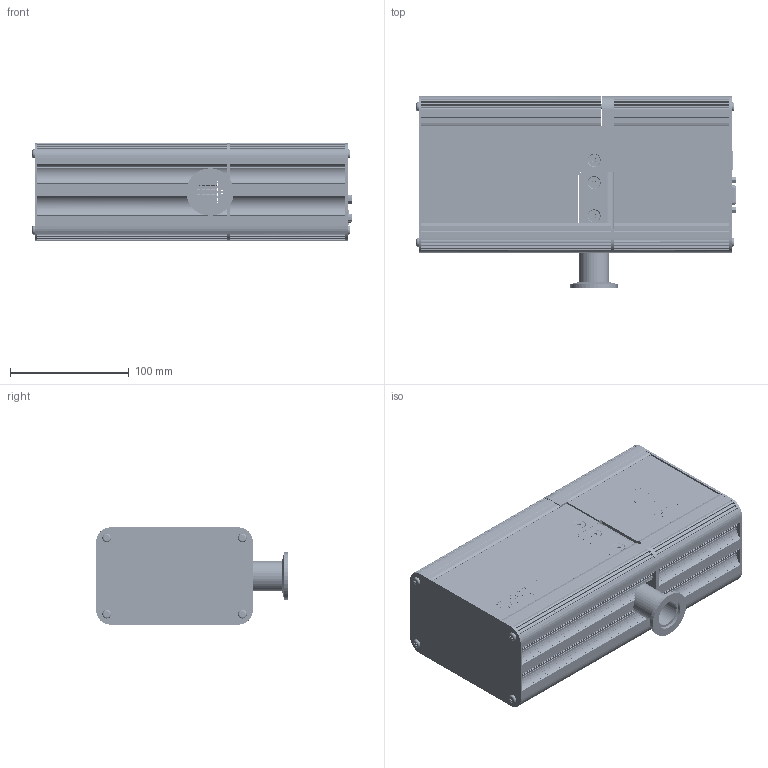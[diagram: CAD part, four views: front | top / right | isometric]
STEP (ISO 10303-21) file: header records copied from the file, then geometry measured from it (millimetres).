
FILE_DESCRIPTION((''),'2;1');
FILE_NAME('S05222-A00_SW0001-CUSTOMER','2025-07-09T08:17:07',('jessica.stoner'),('Gencoa Limited'),'CREO PARAMETRIC BY PTC INC, 2024133','CREO PARAMETRIC BY PTC INC, 2024133','');
FILE_SCHEMA(('CONFIG_CONTROL_DESIGN'));
Products named in the file (1): S05222-A00_SW0001-CUSTOMER
Bounding box: 269.67 x 161.5 x 82 mm (x, y, z)
Volume: 466284.9 mm3; surface area: 383853.5 mm2
Topology: 16 solids, 16 shells, 9710 faces, 28919 edges, 19091 vertices
Faces by surface type: plane 6968, cylinder 1978, extrusion 411, cone 188, bspline 90, torus 69, sphere 6
Entity records: 366083 total; most frequent: CARTESIAN_POINT 103386, ORIENTED_EDGE 57794, DIRECTION 48672, EDGE_CURVE 28897, VECTOR 22982, LINE 22571, VERTEX_POINT 19091, AXIS2_PLACEMENT_3D 12845
